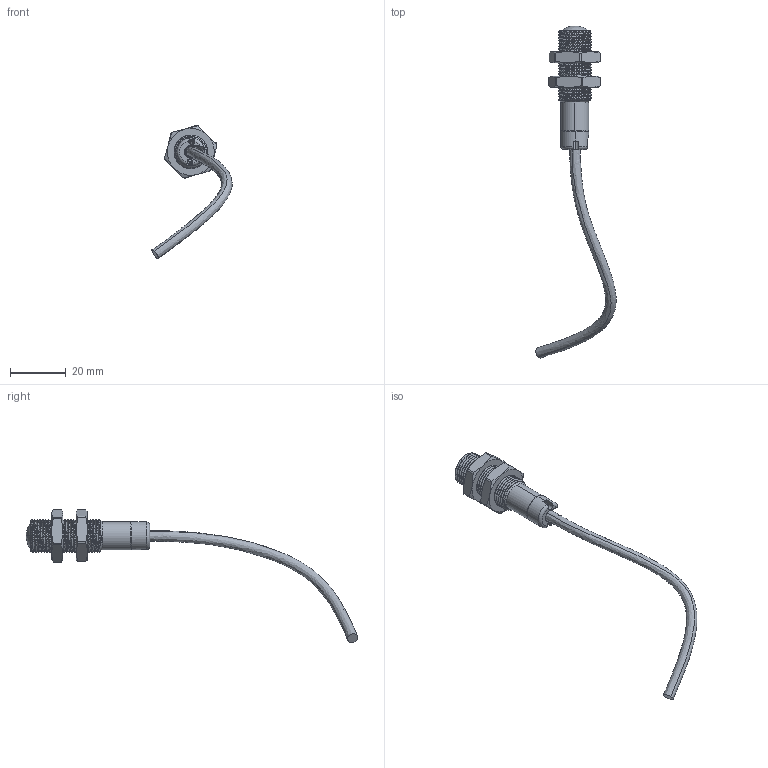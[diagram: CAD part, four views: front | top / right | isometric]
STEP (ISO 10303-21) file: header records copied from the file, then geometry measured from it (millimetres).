
FILE_DESCRIPTION (( 'STEP AP214' ), '1' );
FILE_NAME ('IR_M12Thie31JL12.STEP', '2012-07-31T09:19:36', ( 'fmuellhaupt' ), ( '' ), 'SwSTEP 2.0', 'SolidWorks 2012', '' );
FILE_SCHEMA (( 'AUTOMOTIVE_DESIGN' ));
Length unit declared in the file: millimetre
Products named in the file (1): IR_M12Thie31JL12
Bounding box: 28.73 x 118.73 x 47.62 mm (x, y, z)
Volume: 4255 mm3; surface area: 6659.7 mm2
Topology: 6 solids, 6 shells, 209 faces, 550 edges, 349 vertices
Faces by surface type: cylinder 104, plane 59, cone 27, bspline 11, sphere 4, torus 4
Entity records: 17394 total; most frequent: CARTESIAN_POINT 10237, ORIENTED_EDGE 1096, DIRECTION 912, EDGE_CURVE 548, AXIS2_PLACEMENT_3D 351, VERTEX_POINT 349, EDGE_LOOP 219, UNCERTAINTY_MEASURE_WITH_UNIT 217
